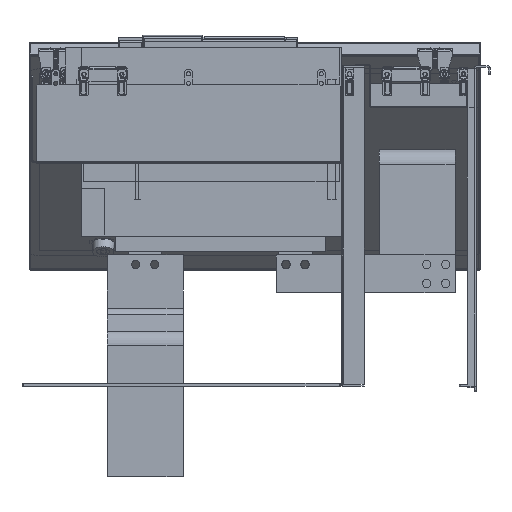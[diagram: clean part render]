
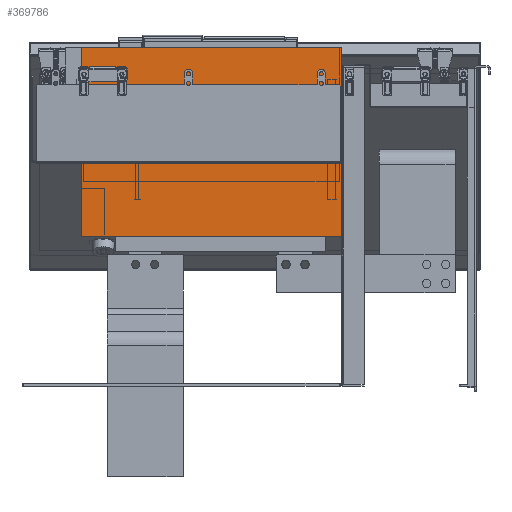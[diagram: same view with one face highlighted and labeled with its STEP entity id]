
A CAD part, left-side view. The second image highlights one B-rep face of the part: STEP entity #369786.
In plain terms, the highlighted planar face has unit normal (-1, 0, 0) as drawn and (1, 0, 0) by its records, which use the part's own axes.
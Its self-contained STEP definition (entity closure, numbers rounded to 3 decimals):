
#366986=CARTESIAN_POINT(' ',(122.5,167.,318.5));
#366987=VERTEX_POINT(' ',#366986);
#367001=CARTESIAN_POINT(' ',(122.5,167.,-24.5));
#367006=DIRECTION(' ',(0.,0.,1.));
#367011=VECTOR(' ',#367006,1.);
#367016=LINE('',#367001,#367011);
#367021=CARTESIAN_POINT(' ',(122.5,167.,-24.5));
#367022=VERTEX_POINT(' ',#367021);
#367026=EDGE_CURVE(' ',#367022,#366987,#367016,.T.);
#367136=CARTESIAN_POINT(' ',(122.5,-81.,-24.5));
#367137=VERTEX_POINT(' ',#367136);
#367161=CARTESIAN_POINT(' ',(122.5,-81.,-24.5));
#367166=DIRECTION(' ',(0.,1.,0.));
#367171=VECTOR(' ',#367166,1.);
#367176=LINE('',#367161,#367171);
#367181=EDGE_CURVE(' ',#367137,#367022,#367176,.T.);
#367616=CARTESIAN_POINT(' ',(122.5,-81.,-3.5));
#367617=VERTEX_POINT(' ',#367616);
#367686=CARTESIAN_POINT(' ',(122.5,-81.,273.5));
#367687=VERTEX_POINT(' ',#367686);
#367701=CARTESIAN_POINT(' ',(122.5,-81.,318.5));
#367706=DIRECTION(' ',(0.,0.,-1.));
#367711=VECTOR(' ',#367706,1.);
#367716=LINE('',#367701,#367711);
#367721=CARTESIAN_POINT(' ',(122.5,-81.,318.5));
#367722=VERTEX_POINT(' ',#367721);
#367726=EDGE_CURVE(' ',#367722,#367687,#367716,.T.);
#367916=CARTESIAN_POINT(' ',(122.5,-81.,-3.5));
#367921=DIRECTION(' ',(0.,0.,-1.));
#367926=VECTOR(' ',#367921,1.);
#367931=LINE('',#367916,#367926);
#367936=EDGE_CURVE(' ',#367617,#367137,#367931,.T.);
#368091=CARTESIAN_POINT(' ',(122.5,167.,318.5));
#368096=DIRECTION(' ',(0.,-1.,0.));
#368101=VECTOR(' ',#368096,1.);
#368106=LINE('',#368091,#368101);
#368111=EDGE_CURVE(' ',#366987,#367722,#368106,.T.);
#369626=DIRECTION(' ',(1.,0.,0.));
#369631=CARTESIAN_POINT(' ',(122.5,-82.,-24.5));
#369636=DIRECTION(' ',(0.,1.,0.));
#369641=AXIS2_PLACEMENT_3D(' ',#369631,#369626,#369636);
#369646=PLANE('NONE',#369641);
#369651=CARTESIAN_POINT(' ',(122.5,-81.,273.5));
#369656=DIRECTION(' ',(0.,-1.,0.));
#369661=VECTOR(' ',#369656,1.);
#369666=LINE('',#369651,#369661);
#369671=CARTESIAN_POINT(' ',(122.5,-82.,273.5));
#369672=VERTEX_POINT(' ',#369671);
#369676=EDGE_CURVE(' ',#367687,#369672,#369666,.T.);
#369681=ORIENTED_EDGE(' ',*,*,#369676,.T.);
#369686=CARTESIAN_POINT(' ',(122.5,-82.,-3.5));
#369691=DIRECTION(' ',(0.,0.,1.));
#369696=VECTOR(' ',#369691,1.);
#369701=LINE('',#369686,#369696);
#369706=CARTESIAN_POINT(' ',(122.5,-82.,-3.5));
#369707=VERTEX_POINT(' ',#369706);
#369711=EDGE_CURVE(' ',#369707,#369672,#369701,.T.);
#369716=ORIENTED_EDGE(' ',*,*,#369711,.F.);
#369721=CARTESIAN_POINT(' ',(122.5,-81.,-3.5));
#369726=DIRECTION(' ',(0.,-1.,0.));
#369731=VECTOR(' ',#369726,1.);
#369736=LINE('',#369721,#369731);
#369741=EDGE_CURVE(' ',#367617,#369707,#369736,.T.);
#369746=ORIENTED_EDGE(' ',*,*,#369741,.F.);
#369751=ORIENTED_EDGE(' ',*,*,#367936,.T.);
#369756=ORIENTED_EDGE(' ',*,*,#367181,.T.);
#369761=ORIENTED_EDGE(' ',*,*,#367026,.T.);
#369766=ORIENTED_EDGE(' ',*,*,#368111,.T.);
#369771=ORIENTED_EDGE(' ',*,*,#367726,.T.);
#369776=EDGE_LOOP(' ',(#369681,#369716,#369746,#369751,#369756,#369761,#369766,#369771));
#369781=FACE_OUTER_BOUND(' ',#369776,.T.);
#369786=ADVANCED_FACE('NONE',(#369781),#369646,.T.);
